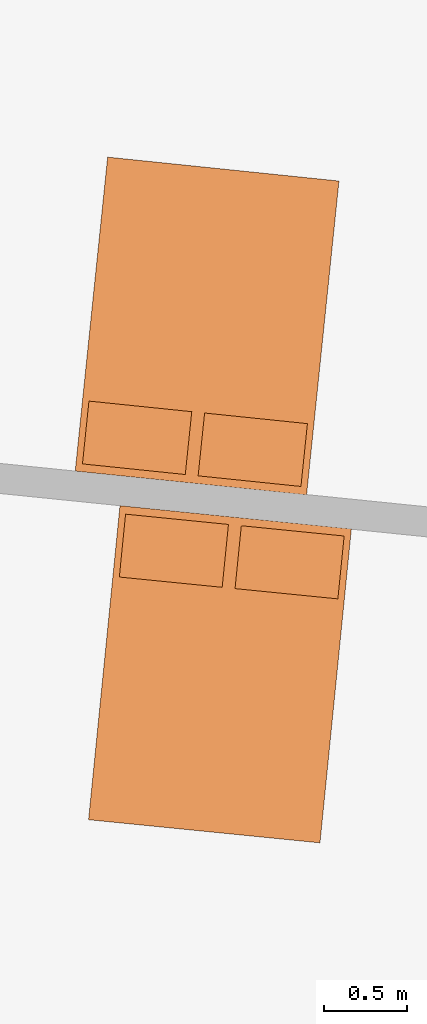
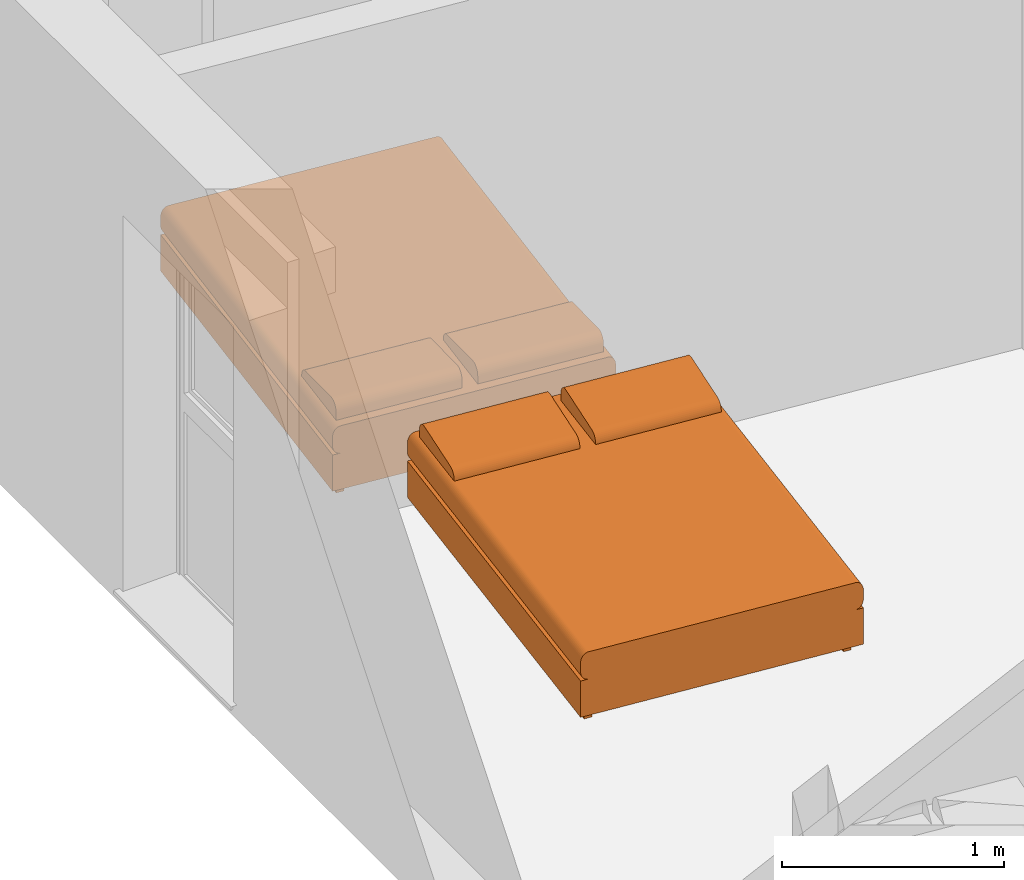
# One storey, part 157 of 164: 2 proxies.
"""IFC2X3 building model written with IfcOpenShell, lengths in millimetres."""

import ifcopenshell
import ifcopenshell.guid

model = None  # the IFC model being written
_history = None  # IfcOwnerHistory: only IFC2X3 demands one
_inside = {}  # id of a spatial element -> (the spatial element, [elements in it])
_under = {}  # id of a project, library or spatial element -> (it, [spatial elements below it])
_declared = {}  # id of a project -> (the project, [libraries it declares])
_typed = {}  # id of a type object -> (the type object, [elements of that type])
_made_of = {}  # id of a material, layer set ... -> (it, [elements and type objects made of it])


def new_model(schema):
    """Start an empty IFC model of exactly this schema.

    Asked for "IFC4X3", IfcOpenShell would pick the latest addendum, in which some entities
    have other attributes; the version numbers below select the first issue.
    IFC2X3 requires an IfcOwnerHistory on every rooted entity: one is made here for all.
    """
    global model, _history
    if schema == "IFC4X3":
        model = ifcopenshell.file(schema_version=(4, 3, 0, 0))
    else:
        model = ifcopenshell.file(schema=schema)
    _inside.clear()
    _under.clear()
    _declared.clear()
    _typed.clear()
    _made_of.clear()
    _history = None
    if model.schema == "IFC2X3":
        org = make("IfcOrganization", Name="unknown")
        user = make(
            "IfcPersonAndOrganization",
            ThePerson=make("IfcPerson", FamilyName="unknown"),
            TheOrganization=org,
        )
        app = make(
            "IfcApplication",
            ApplicationDeveloper=org,
            Version="unknown",
            ApplicationFullName="unknown",
            ApplicationIdentifier="unknown",
        )
        _history = make(
            "IfcOwnerHistory",
            OwningUser=user,
            OwningApplication=app,
            ChangeAction="ADDED",
            CreationDate=0,
        )
    return model


def make(cls, **values):
    """One entity of the class cls with the attributes given. An attribute that is None is left unset."""
    return model.create_entity(
        cls, **{name: value for name, value in values.items() if value is not None}
    )


def entity(cls, *values):
    """Any entity or typed value of the class cls, its attributes in the order of the schema. None: left unset."""
    e = model.create_entity(cls)
    for i, value in enumerate(values):
        if value is not None:
            e[i] = value
    return e


def rooted(cls, **values):
    """An entity with a GlobalId (a new one), such as an element, a storey or a relation."""
    return make(cls, GlobalId=ifcopenshell.guid.new(), OwnerHistory=_history, **values)


def si_unit(unit_type, name, prefix=None):
    """IfcSIUnit, for example si_unit("LENGTHUNIT", "METRE", prefix="MILLI")."""
    return make("IfcSIUnit", UnitType=unit_type, Prefix=prefix, Name=name)


def converted_unit(unit_type, name, factor, base, dimensions=None, offset=None):
    """IfcConversionBasedUnit, such as the inch: factor (a typed value) times the base unit."""
    return make(
        "IfcConversionBasedUnit"
        if offset is None
        else "IfcConversionBasedUnitWithOffset",
        ConversionOffset=offset,
        Dimensions=None
        if dimensions is None
        else entity("IfcDimensionalExponents", *dimensions),
        UnitType=unit_type,
        Name=name,
        ConversionFactor=make(
            "IfcMeasureWithUnit", ValueComponent=factor, UnitComponent=base
        ),
    )


def derived_unit(unit_type, elements):
    """IfcDerivedUnit: a product of units, each with its exponent."""
    return make(
        "IfcDerivedUnit",
        Elements=[
            make("IfcDerivedUnitElement", Unit=unit, Exponent=power)
            for unit, power in elements
        ],
        UnitType=unit_type,
    )


def money_unit(currency):
    """IfcMonetaryUnit."""
    return make("IfcMonetaryUnit", Currency=currency)


def assignment(units):
    """IfcUnitAssignment: the units of a project."""
    return None if units is None else make("IfcUnitAssignment", Units=units)


def point(xyz):
    """IfcCartesianPoint."""
    return None if xyz is None else make("IfcCartesianPoint", Coordinates=xyz)


def direction(xyz):
    """IfcDirection."""
    return None if xyz is None else make("IfcDirection", DirectionRatios=xyz)


def frame(location, z_axis=None, x_axis=None):
    """IfcAxis2Placement3D, a coordinate frame: its origin and axes. An axis left out is left unset."""
    return make(
        "IfcAxis2Placement3D",
        Location=point(location),
        Axis=direction(z_axis),
        RefDirection=direction(x_axis),
    )


def origin_with_axes():
    """The frame at (0, 0, 0) with the z axis (0, 0, 1) and the x axis (1, 0, 0) written out."""
    return frame((0.0, 0.0, 0.0), z_axis=(0.0, 0.0, 1.0), x_axis=(1.0, 0.0, 0.0))


def place(relative_to, where):
    """IfcLocalPlacement: puts the frame where relative to a parent placement (None: the world)."""
    return make(
        "IfcLocalPlacement", PlacementRelTo=relative_to, RelativePlacement=where
    )


def context(
    kind, dimensions, precision=None, world=None, true_north=None, identifier=None
):
    """IfcGeometricRepresentationContext, for example the 3D "Model" context."""
    return make(
        "IfcGeometricRepresentationContext",
        ContextIdentifier=identifier,
        ContextType=kind,
        CoordinateSpaceDimension=dimensions,
        Precision=precision,
        WorldCoordinateSystem=world,
        TrueNorth=true_north,
    )


def subcontext(parent, identifier, kind, view, scale=None):
    """IfcGeometricRepresentationSubContext, for example "Body" below "Model"."""
    return make(
        "IfcGeometricRepresentationSubContext",
        ContextIdentifier=identifier,
        ContextType=kind,
        ParentContext=parent,
        TargetScale=scale,
        TargetView=view,
    )


def project(units=None, contexts=None):
    """IfcProject with its units and contexts."""
    return rooted(
        "IfcProject",
        Name="project",
        RepresentationContexts=contexts,
        UnitsInContext=assignment(units),
    )


def spatial(cls, under=None, at=None, **own):
    """A site, building, storey or space (cls), placed at a placement, below another one or the project."""
    s = rooted(cls, ObjectPlacement=at, **own)
    if under is not None:
        _under.setdefault(under.id(), (under, []))[1].append(s)
    return s


def faces_of(points, faces, orient=None, outer=None):
    """IfcFace entities. A face is a list of loops; a loop is a list of indices into points, from 0.

    orient and outer hold one flag for each loop. By default every Orientation is true, the
    first loop of a face is its IfcFaceOuterBound and the others are IfcFaceBound.
    """
    made = []
    for i, loops in enumerate(faces):
        bounds = []
        for j, loop in enumerate(loops):
            is_outer = j == 0 if outer is None else outer[i][j]
            bounds.append(
                make(
                    "IfcFaceOuterBound" if is_outer else "IfcFaceBound",
                    Bound=make("IfcPolyLoop", Polygon=[points[k] for k in loop]),
                    Orientation=True if orient is None else orient[i][j],
                )
            )
        made.append(make("IfcFace", Bounds=bounds))
    return made


def open_shell(faces, orient=None, outer=None):
    """The faces of one IfcOpenShell. surface_model builds it on its shared points."""
    return ("IfcOpenShell", faces, orient, outer)


def faceted_brep(points, faces, orient=None, outer=None, voids=None):
    """IfcFacetedBrep: a solid bounded by flat faces; with voids (closed shells), ...WithVoids."""
    shared = [point(p) for p in points]
    hull = make("IfcClosedShell", CfsFaces=faces_of(shared, faces, orient, outer))
    if voids is None:
        return make("IfcFacetedBrep", Outer=hull)
    return make(
        "IfcFacetedBrepWithVoids",
        Outer=hull,
        Voids=[
            make(cls, CfsFaces=faces_of(shared, fs, o, b)) for cls, fs, o, b in voids
        ],
    )


def surface_model(cls, points, shells):
    """IfcFaceBasedSurfaceModel or IfcShellBasedSurfaceModel (cls): surfaces that need not close."""
    shared = [point(p) for p in points]
    made = [make(c, CfsFaces=faces_of(shared, fs, o, b)) for c, fs, o, b in shells]
    if cls == "IfcFaceBasedSurfaceModel":
        return make(cls, FbsmFaces=made)
    return make(cls, SbsmBoundary=made)


def shape(context_of_items, identifier, shape_type, items):
    """IfcShapeRepresentation: the items that make up one representation, for example the "Body"."""
    return make(
        "IfcShapeRepresentation",
        ContextOfItems=context_of_items,
        RepresentationIdentifier=identifier,
        RepresentationType=shape_type,
        Items=items,
    )


def source(mapping_origin, context_of_items, identifier, shape_type, items):
    """IfcRepresentationMap: a shape defined once, which mapped items show again and again."""
    return make(
        "IfcRepresentationMap",
        MappingOrigin=mapping_origin,
        MappedRepresentation=shape(context_of_items, identifier, shape_type, items),
    )


def transform(
    local_origin,
    x_axis=None,
    y_axis=None,
    z_axis=None,
    scale=None,
    scale2=None,
    scale3=None,
    uniform=True,
):
    """IfcCartesianTransformationOperator3D, or its non-uniform kind. x_axis, y_axis, z_axis: its Axis1, 2, 3."""
    if uniform:
        return make(
            "IfcCartesianTransformationOperator3D",
            Axis1=direction(x_axis),
            Axis2=direction(y_axis),
            LocalOrigin=point(local_origin),
            Scale=scale,
            Axis3=direction(z_axis),
        )
    return make(
        "IfcCartesianTransformationOperator3DnonUniform",
        Axis1=direction(x_axis),
        Axis2=direction(y_axis),
        LocalOrigin=point(local_origin),
        Scale=scale,
        Axis3=direction(z_axis),
        Scale2=scale2,
        Scale3=scale3,
    )


def mapped(mapping_source, mapping_target):
    """IfcMappedItem: shows the shape of a source again, moved by a transform."""
    return make(
        "IfcMappedItem", MappingSource=mapping_source, MappingTarget=mapping_target
    )


def made_of(thing, what):
    """Note that an element or type object is made of a material, layer set ...; save() writes the relation."""
    if what is not None:
        _made_of.setdefault(what.id(), (what, []))[1].append(thing)
    return thing


def type_object(cls, material=None, **own):
    """A type object (cls), such as IfcWallType, which elements share."""
    return made_of(rooted(cls, **own), material)


def element(
    cls,
    number,
    at=None,
    inside=None,
    cuts=None,
    type_object=None,
    material=None,
    context=None,
    identifier="Body",
    shape_type=None,
    held_by="IfcProductDefinitionShape",
    body=None,
    shapes=None,
    **own,
):
    """One element of the class cls, such as IfcWall. Its Tag is "e" and its number.

    at: its placement. inside: the storey or other place that contains it. cuts: it is an
    opening in that element (IfcRelVoidsElement). A single representation is given by context,
    identifier, shape_type and body (its items); several are given by shapes. held_by: the class
    of the entity that holds the representations. save() writes the other relations.
    """
    e = rooted(cls, Tag="e%d" % number, ObjectPlacement=at, **own)
    if body is not None:
        shapes = [shape(context, identifier, shape_type, body)]
    if shapes is not None:
        e.Representation = make(held_by, Representations=shapes)
    if inside is not None:
        _inside.setdefault(inside.id(), (inside, []))[1].append(e)
    if cuts is not None:
        rooted(
            "IfcRelVoidsElement", RelatingBuildingElement=cuts, RelatedOpeningElement=e
        )
    if type_object is not None:
        _typed.setdefault(type_object.id(), (type_object, []))[1].append(e)
    return made_of(e, material)


def aggregate(whole, parts):
    """IfcRelAggregates: a whole, such as a stair, and the parts it consists of."""
    return rooted("IfcRelAggregates", RelatingObject=whole, RelatedObjects=parts)


def save(model, path):
    """Write the relations noted so far, then the file.

    IfcRelAggregates (storeys below a building ...), IfcRelContainedInSpatialStructure (elements
    in a storey), IfcRelDefinesByType, IfcRelAssociatesMaterial and IfcRelDeclares: one each for
    every whole, place, type object, material and project.
    """
    for whole, parts in _under.values():
        aggregate(whole, parts)
    for where, things in _inside.values():
        rooted(
            "IfcRelContainedInSpatialStructure",
            RelatedElements=things,
            RelatingStructure=where,
        )
    for kind, things in _typed.values():
        rooted("IfcRelDefinesByType", RelatedObjects=things, RelatingType=kind)
    for what, things in _made_of.values():
        rooted("IfcRelAssociatesMaterial", RelatedObjects=things, RelatingMaterial=what)
    for by, libraries in _declared.values():
        rooted("IfcRelDeclares", RelatingContext=by, RelatedDefinitions=libraries)
    model.write(path)


model = new_model("IFC2X3")

# Units and contexts
model_context = context("Model", 3, precision=0.01, world=origin_with_axes(), true_north=direction((0.0, 1.0)))
body_context = subcontext(model_context, "Body", "Model", "MODEL_VIEW")
ifc_project = project(units=[si_unit("LENGTHUNIT", "METRE", prefix="MILLI"), si_unit("AREAUNIT", "SQUARE_METRE"), si_unit("VOLUMEUNIT", "CUBIC_METRE"), converted_unit("PLANEANGLEUNIT", "DEGREE", entity("IfcPlaneAngleMeasure", 0.0174532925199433), si_unit("PLANEANGLEUNIT", "RADIAN"), dimensions=[0, 0, 0, 0, 0, 0, 0]), money_unit("USD"), converted_unit("TIMEUNIT", "Year", entity("IfcTimeMeasure", 31557600.0), si_unit("TIMEUNIT", "SECOND"), dimensions=[0, 0, 1, 0, 0, 0, 0]), si_unit("MASSUNIT", "GRAM", prefix="KILO"), si_unit("THERMODYNAMICTEMPERATUREUNIT", "DEGREE_CELSIUS"), si_unit("LUMINOUSINTENSITYUNIT", "LUMEN"), si_unit("ENERGYUNIT", "JOULE", prefix="MEGA"), derived_unit("THERMALCONDUCTANCEUNIT", [(si_unit("POWERUNIT", "WATT"), 1), (si_unit("LENGTHUNIT", "METRE"), -1), (si_unit("THERMODYNAMICTEMPERATUREUNIT", "KELVIN"), -1)]), derived_unit("SPECIFICHEATCAPACITYUNIT", [(si_unit("ENERGYUNIT", "JOULE"), 1), (si_unit("MASSUNIT", "GRAM", prefix="KILO"), -1), (si_unit("THERMODYNAMICTEMPERATUREUNIT", "KELVIN"), -1)]), derived_unit("MASSDENSITYUNIT", [(si_unit("MASSUNIT", "GRAM", prefix="KILO"), 1), (si_unit("VOLUMEUNIT", "CUBIC_METRE"), -1)])], contexts=[model_context])

# Site, building, storey
site_placement = place(None, origin_with_axes())
site = spatial("IfcSite", under=ifc_project, at=site_placement, Name="Site", CompositionType="ELEMENT")
building_placement = place(site_placement, origin_with_axes())
building = spatial("IfcBuilding", under=site, at=building_placement, Name="Bâtiment", CompositionType="ELEMENT")
storey_placement = place(building_placement, frame((0.0, 0.0, 5750.0), z_axis=(0.0, 0.0, 1.0), x_axis=(1.0, 0.0, 0.0)))
storey = spatial("IfcBuildingStorey", under=building, at=storey_placement, Name="Etage1", CompositionType="ELEMENT", Elevation=5750.0)

# Proxies
building_element_proxy_type = type_object("IfcBuildingElementProxyType", PredefinedType="NOTDEFINED")
shared_shape_1 = source(origin_with_axes(), body_context, "Body", "SurfaceModel", [
    faceted_brep([(-622.2222222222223, -95.0, 0.0), (-661.1111111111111, -95.0, 0.0), (-661.1111111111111, -47.5, 0.0), (-622.2222222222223, -47.5, 0.0), (-622.2222222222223, -95.0, 50.0), (-661.1111111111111, -95.0, 50.0), (-661.1111111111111, -47.5, 50.0), (-622.2222222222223, -47.5, 50.0)], [[[0, 1, 2, 3]], [[1, 0, 4, 5]], [[2, 1, 5, 6]], [[3, 2, 6, 7]], [[0, 3, 7, 4]], [[5, 4, 7, 6]]]),
    faceted_brep([(-622.2222222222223, -1852.5, 0.0), (-661.1111111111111, -1852.5, 0.0), (-661.1111111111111, -1805.0, 0.0), (-622.2222222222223, -1805.0, 0.0), (-622.2222222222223, -1852.5, 50.0), (-661.1111111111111, -1852.5, 50.0), (-661.1111111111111, -1805.0, 50.0), (-622.2222222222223, -1805.0, 50.0)], [[[0, 1, 2, 3]], [[1, 0, 4, 5]], [[2, 1, 5, 6]], [[3, 2, 6, 7]], [[0, 3, 7, 4]], [[5, 4, 7, 6]]]),
    faceted_brep([(661.111111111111, -1852.5, 0.0), (622.2222222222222, -1852.5, 0.0), (622.2222222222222, -1805.0, 0.0), (661.111111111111, -1805.0, 0.0), (661.111111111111, -1852.5, 50.0), (622.2222222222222, -1852.5, 50.0), (622.2222222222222, -1805.0, 50.0), (661.111111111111, -1805.0, 50.0)], [[[0, 1, 2, 3]], [[1, 0, 4, 5]], [[2, 1, 5, 6]], [[3, 2, 6, 7]], [[0, 3, 7, 4]], [[5, 4, 7, 6]]]),
    faceted_brep([(661.111111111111, -94.99999999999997, 0.0), (622.2222222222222, -94.99999999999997, 0.0), (622.2222222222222, -47.49999999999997, 0.0), (661.111111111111, -47.49999999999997, 0.0), (661.111111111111, -94.99999999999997, 50.0), (622.2222222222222, -94.99999999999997, 50.0), (622.2222222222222, -47.49999999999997, 50.0), (661.111111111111, -47.49999999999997, 50.0)], [[[0, 1, 2, 3]], [[1, 0, 4, 5]], [[2, 1, 5, 6]], [[3, 2, 6, 7]], [[0, 3, 7, 4]], [[5, 4, 7, 6]]]),
    faceted_brep([(-700.0, 0.0, 50.0), (700.0, 0.0, 50.0), (700.0, -1900.0, 50.00000000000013), (-700.0, -1900.0, 50.00000000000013), (-700.0, 0.0, 250.0), (700.0, 0.0, 250.0), (700.0, -1900.0, 250.0000000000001), (-700.0, -1900.0, 250.0000000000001)], [[[0, 1, 2, 3]], [[0, 4, 5, 1]], [[1, 5, 6, 2]], [[3, 2, 6, 7]], [[4, 0, 3, 7]], [[5, 4, 7, 6]]]),
    surface_model("IfcShellBasedSurfaceModel", [(661.1111111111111, 0.0, 250.0), (667.8640957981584, 0.0, 250.7596123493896), (667.8640957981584, -1900.0, 250.7596123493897), (661.1111111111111, -1900.0, 250.0000000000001), (-661.1111111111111, 0.0, 250.0), (-667.8640957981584, 0.0, 250.7596123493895), (-674.4118944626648, 0.0, 253.0153689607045), (-680.5555555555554, 0.0, 256.698729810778), (-686.1084070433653, 0.0, 261.6977778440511), (-690.9017283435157, 0.0, 267.860619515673), (-694.7898768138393, 0.0, 275.0), (-697.654713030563, 0.0, 282.8989928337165), (-699.4091903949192, 0.0, 291.3175911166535), (-700.0, 0.0, 300.0000000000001), (-700.0000000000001, 0.0, 350.0), (-699.4091903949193, 0.0, 358.6824088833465), (-697.654713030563, 0.0, 367.1010071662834), (-694.7898768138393, 0.0, 375.0), (-690.9017283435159, 0.0, 382.139380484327), (-686.1084070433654, 0.0, 388.3022221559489), (-680.5555555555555, 0.0, 393.301270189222), (-674.4118944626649, 0.0, 396.9846310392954), (-667.8640957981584, 0.0, 399.2403876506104), (-661.1111111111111, 0.0, 400.0), (661.111111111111, 0.0, 400.0000000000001), (667.8640957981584, 0.0, 399.2403876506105), (674.4118944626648, 0.0, 396.9846310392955), (680.5555555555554, 0.0, 393.301270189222), (686.1084070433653, 0.0, 388.3022221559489), (690.9017283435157, 0.0, 382.139380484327), (694.7898768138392, 0.0, 375.0000000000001), (697.654713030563, 0.0, 367.1010071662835), (699.4091903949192, 0.0, 358.6824088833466), (700.0, 0.0, 350.0000000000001), (700.0, 0.0, 300.0000000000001), (699.4091903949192, 0.0, 291.3175911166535), (697.654713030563, 0.0, 282.8989928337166), (694.7898768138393, 0.0, 275.0), (690.9017283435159, 0.0, 267.8606195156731), (686.1084070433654, 0.0, 261.6977778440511), (680.5555555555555, 0.0, 256.698729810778), (674.4118944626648, 0.0, 253.0153689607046), (674.4118944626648, -1900.0, 253.0153689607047), (-661.1111111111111, -1900.0, 250.0000000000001), (680.5555555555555, -1900.0, 256.6987298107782), (686.1084070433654, -1900.0, 261.6977778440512), (690.9017283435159, -1900.0, 267.8606195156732), (694.7898768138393, -1900.0, 275.0000000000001), (697.654713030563, -1900.0, 282.8989928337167), (699.4091903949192, -1900.0, 291.3175911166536), (700.0, -1900.0, 300.0000000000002), (700.0, -1900.0, 350.0000000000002), (699.4091903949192, -1900.0, 358.6824088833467), (697.654713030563, -1900.0, 367.1010071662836), (694.7898768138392, -1900.0, 375.0000000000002), (690.9017283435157, -1900.0, 382.1393804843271), (686.1084070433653, -1900.0, 388.302222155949), (680.5555555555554, -1900.0, 393.3012701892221), (674.4118944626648, -1900.0, 396.9846310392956), (667.8640957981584, -1900.0, 399.2403876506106), (661.111111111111, -1900.0, 400.0000000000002), (-661.1111111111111, -1900.0, 400.0000000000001), (-667.8640957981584, -1900.0, 399.2403876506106), (-674.4118944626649, -1900.0, 396.9846310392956), (-680.5555555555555, -1900.0, 393.3012701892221), (-686.1084070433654, -1900.0, 388.302222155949), (-690.9017283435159, -1900.0, 382.1393804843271), (-694.7898768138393, -1900.0, 375.0000000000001), (-697.654713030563, -1900.0, 367.1010071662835), (-699.4091903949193, -1900.0, 358.6824088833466), (-700.0000000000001, -1900.0, 350.0000000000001), (-700.0, -1900.0, 300.0000000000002), (-699.4091903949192, -1900.0, 291.3175911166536), (-697.654713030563, -1900.0, 282.8989928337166), (-694.7898768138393, -1900.0, 275.0000000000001), (-690.9017283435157, -1900.0, 267.8606195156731), (-686.1084070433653, -1900.0, 261.6977778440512), (-680.5555555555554, -1900.0, 256.6987298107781), (-674.4118944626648, -1900.0, 253.0153689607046), (-667.8640957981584, -1900.0, 250.7596123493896)], [open_shell([[[0, 1, 2, 3]], [[4, 5, 6, 7, 8, 9, 10, 11, 12, 13, 14, 15, 16, 17, 18, 19, 20, 21, 22, 23, 24, 25, 26, 27, 28, 29, 30, 31, 32, 33, 34, 35, 36, 37, 38, 39, 40, 41, 1, 0]], [[1, 41, 42, 2]], [[43, 3, 2, 42, 44, 45, 46, 47, 48, 49, 50, 51, 52, 53, 54, 55, 56, 57, 58, 59, 60, 61, 62, 63, 64, 65, 66, 67, 68, 69, 70, 71, 72, 73, 74, 75, 76, 77, 78, 79]], [[5, 4, 43, 79]], [[6, 5, 79, 78]], [[7, 6, 78, 77]], [[8, 7, 77, 76]], [[9, 8, 76, 75]], [[10, 9, 75, 74]], [[11, 10, 74, 73]], [[12, 11, 73, 72]], [[13, 12, 72, 71]], [[14, 13, 71, 70]], [[15, 14, 70, 69]], [[16, 15, 69, 68]], [[17, 16, 68, 67]], [[18, 17, 67, 66]], [[19, 18, 66, 65]], [[20, 19, 65, 64]], [[21, 20, 64, 63]], [[22, 21, 63, 62]], [[23, 22, 62, 61]], [[24, 23, 61, 60]], [[25, 24, 60, 59]], [[26, 25, 59, 58]], [[27, 26, 58, 57]], [[28, 27, 57, 56]], [[29, 28, 56, 55]], [[30, 29, 55, 54]], [[31, 30, 54, 53]], [[32, 31, 53, 52]], [[33, 32, 52, 51]], [[34, 33, 51, 50]], [[35, 34, 50, 49]], [[36, 35, 49, 48]], [[37, 36, 48, 47]], [[38, 37, 47, 46]], [[39, 38, 46, 45]], [[40, 39, 45, 44]], [[41, 40, 44, 42]]])]),
    faceted_brep([(38.88888888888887, -47.49999999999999, 400.0), (38.88888888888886, -47.49999999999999, 443.4), (661.1111111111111, -47.50000000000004, 443.4000000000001), (661.1111111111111, -47.50000000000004, 400.0000000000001), (38.88888888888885, -427.5, 400.0), (38.88888888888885, -427.6960812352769, 408.695442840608), (38.88888888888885, -426.4675711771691, 417.2966661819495), (38.88888888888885, -423.8511300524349, 425.5469991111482), (38.88888888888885, -419.9248356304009, 433.2002417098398), (38.88888888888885, -414.8058532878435, 440.0280119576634), (38.88888888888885, -408.6469396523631, 445.826560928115), (38.88888888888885, -401.6318841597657, 450.4228529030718), (38.88888888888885, -393.9700245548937, 453.6797289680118), (38.88888888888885, -385.89, 455.5), (38.88888888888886, -100.89, 493.0000000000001), (38.88888888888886, -92.85488048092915, 493.3370808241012), (38.88888888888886, -84.88093291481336, 492.2422169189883), (38.88888888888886, -77.19681007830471, 489.7468034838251), (38.88888888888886, -70.02285403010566, 485.922396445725), (38.88888888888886, -63.56477780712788, 480.878660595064), (38.88888888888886, -58.00776660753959, 474.7602249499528), (38.88888888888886, -53.51116760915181, 467.7425355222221), (38.88888888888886, -50.20392069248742, 460.0268244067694), (38.88888888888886, -48.18086109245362, 451.834339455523), (661.1111111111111, -48.18086109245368, 451.8343394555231), (661.1111111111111, -50.20392069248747, 460.0268244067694), (661.1111111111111, -53.51116760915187, 467.7425355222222), (661.1111111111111, -58.00776660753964, 474.7602249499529), (661.1111111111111, -63.56477780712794, 480.878660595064), (661.1111111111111, -70.02285403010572, 485.922396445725), (661.1111111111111, -77.19681007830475, 489.7468034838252), (661.1111111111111, -84.88093291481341, 492.2422169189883), (661.1111111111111, -92.85488048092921, 493.3370808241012), (661.1111111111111, -100.8900000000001, 493.0000000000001), (661.1111111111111, -385.89, 455.5000000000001), (661.1111111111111, -393.9700245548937, 453.6797289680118), (661.1111111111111, -401.6318841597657, 450.4228529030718), (661.1111111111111, -408.6469396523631, 445.826560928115), (661.1111111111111, -414.8058532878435, 440.0280119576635), (661.1111111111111, -419.924835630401, 433.2002417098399), (661.1111111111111, -423.8511300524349, 425.5469991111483), (661.1111111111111, -426.4675711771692, 417.2966661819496), (661.1111111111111, -427.6960812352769, 408.6954428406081), (661.1111111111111, -427.5, 400.0000000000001)], [[[0, 1, 2, 3]], [[0, 4, 5, 6, 7, 8, 9, 10, 11, 12, 13, 14, 15, 16, 17, 18, 19, 20, 21, 22, 23, 1]], [[1, 23, 24, 2]], [[3, 2, 24, 25, 26, 27, 28, 29, 30, 31, 32, 33, 34, 35, 36, 37, 38, 39, 40, 41, 42, 43]], [[4, 0, 3, 43]], [[5, 4, 43, 42]], [[6, 5, 42, 41]], [[7, 6, 41, 40]], [[8, 7, 40, 39]], [[9, 8, 39, 38]], [[10, 9, 38, 37]], [[11, 10, 37, 36]], [[12, 11, 36, 35]], [[13, 12, 35, 34]], [[14, 13, 34, 33]], [[15, 14, 33, 32]], [[16, 15, 32, 31]], [[17, 16, 31, 30]], [[18, 17, 30, 29]], [[19, 18, 29, 28]], [[20, 19, 28, 27]], [[21, 20, 27, 26]], [[22, 21, 26, 25]], [[23, 22, 25, 24]]]),
    faceted_brep([(-661.1111111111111, -47.49999999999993, 399.9999999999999), (-661.1111111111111, -47.49999999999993, 443.4), (-38.88888888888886, -47.49999999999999, 443.4), (-38.88888888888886, -47.49999999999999, 400.0), (-661.1111111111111, -427.4999999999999, 399.9999999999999), (-661.1111111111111, -427.6960812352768, 408.6954428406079), (-661.1111111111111, -426.4675711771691, 417.2966661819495), (-661.1111111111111, -423.8511300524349, 425.5469991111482), (-661.1111111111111, -419.9248356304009, 433.2002417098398), (-661.1111111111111, -414.8058532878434, 440.0280119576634), (-661.1111111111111, -408.646939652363, 445.8265609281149), (-661.1111111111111, -401.6318841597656, 450.4228529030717), (-661.1111111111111, -393.9700245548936, 453.6797289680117), (-661.1111111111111, -385.8899999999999, 455.4999999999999), (-661.1111111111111, -100.89, 493.0), (-661.1111111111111, -92.8548804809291, 493.3370808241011), (-661.1111111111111, -84.8809329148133, 492.2422169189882), (-661.1111111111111, -77.19681007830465, 489.7468034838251), (-661.1111111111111, -70.0228540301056, 485.9223964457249), (-661.1111111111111, -63.56477780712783, 480.8786605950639), (-661.1111111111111, -58.00776660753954, 474.7602249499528), (-661.1111111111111, -53.51116760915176, 467.7425355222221), (-661.1111111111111, -50.20392069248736, 460.0268244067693), (-661.1111111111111, -48.18086109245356, 451.834339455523), (-38.88888888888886, -48.18086109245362, 451.834339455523), (-38.88888888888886, -50.20392069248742, 460.0268244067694), (-38.88888888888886, -53.51116760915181, 467.7425355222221), (-38.88888888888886, -58.00776660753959, 474.7602249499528), (-38.88888888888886, -63.56477780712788, 480.878660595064), (-38.88888888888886, -70.02285403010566, 485.922396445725), (-38.88888888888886, -77.19681007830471, 489.7468034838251), (-38.88888888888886, -84.88093291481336, 492.2422169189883), (-38.88888888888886, -92.85488048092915, 493.3370808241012), (-38.88888888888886, -100.89, 493.0000000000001), (-38.88888888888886, -385.8899999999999, 455.5), (-38.88888888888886, -393.9700245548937, 453.6797289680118), (-38.88888888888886, -401.6318841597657, 450.4228529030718), (-38.88888888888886, -408.6469396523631, 445.826560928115), (-38.88888888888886, -414.8058532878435, 440.0280119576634), (-38.88888888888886, -419.9248356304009, 433.2002417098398), (-38.88888888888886, -423.8511300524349, 425.5469991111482), (-38.88888888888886, -426.4675711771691, 417.2966661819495), (-38.88888888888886, -427.6960812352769, 408.695442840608), (-38.88888888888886, -427.4999999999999, 400.0)], [[[0, 1, 2, 3]], [[0, 4, 5, 6, 7, 8, 9, 10, 11, 12, 13, 14, 15, 16, 17, 18, 19, 20, 21, 22, 23, 1]], [[1, 23, 24, 2]], [[3, 2, 24, 25, 26, 27, 28, 29, 30, 31, 32, 33, 34, 35, 36, 37, 38, 39, 40, 41, 42, 43]], [[4, 0, 3, 43]], [[5, 4, 43, 42]], [[6, 5, 42, 41]], [[7, 6, 41, 40]], [[8, 7, 40, 39]], [[9, 8, 39, 38]], [[10, 9, 38, 37]], [[11, 10, 37, 36]], [[12, 11, 36, 35]], [[13, 12, 35, 34]], [[14, 13, 34, 33]], [[15, 14, 33, 32]], [[16, 15, 32, 31]], [[17, 16, 31, 30]], [[18, 17, 30, 29]], [[19, 18, 29, 28]], [[20, 19, 28, 27]], [[21, 20, 27, 26]], [[22, 21, 26, 25]], [[23, 22, 25, 24]]]),
])
proxy_1_placement = place(storey_placement, frame((2218565.66618662, -610820.4848225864, 0.0), z_axis=(0.0, 0.0, 1.0), x_axis=(-0.994709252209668, 0.1027302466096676, 0.0)))
element("IfcBuildingElementProxy", 1, at=proxy_1_placement, inside=storey, type_object=building_element_proxy_type, Name="Obj.-003", context=body_context, shape_type="MappedRepresentation", body=[
    mapped(shared_shape_1, transform((0.0, 0.0, 0.0))),
])
shared_shape_2 = source(origin_with_axes(), body_context, "Body", "SurfaceModel", [
    faceted_brep([(622.2222222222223, -95.0, 0.0), (622.2222222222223, -47.5, 0.0), (661.1111111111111, -47.5, 0.0), (661.1111111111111, -95.0, 0.0), (622.2222222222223, -95.0, 50.0), (622.2222222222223, -47.5, 50.0), (661.1111111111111, -47.5, 50.0), (661.1111111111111, -95.0, 50.0)], [[[0, 1, 2, 3]], [[0, 4, 5, 1]], [[1, 5, 6, 2]], [[2, 6, 7, 3]], [[3, 7, 4, 0]], [[7, 6, 5, 4]]]),
    faceted_brep([(622.2222222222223, -1852.5, 0.0), (622.2222222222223, -1805.0, 0.0), (661.1111111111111, -1805.0, 0.0), (661.1111111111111, -1852.5, 0.0), (622.2222222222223, -1852.5, 50.0), (622.2222222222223, -1805.0, 50.0), (661.1111111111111, -1805.0, 50.0), (661.1111111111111, -1852.5, 50.0)], [[[0, 1, 2, 3]], [[0, 4, 5, 1]], [[1, 5, 6, 2]], [[2, 6, 7, 3]], [[3, 7, 4, 0]], [[7, 6, 5, 4]]]),
    faceted_brep([(-661.111111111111, -1852.5, 0.0), (-661.111111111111, -1805.0, 0.0), (-622.2222222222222, -1805.0, 0.0), (-622.2222222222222, -1852.5, 0.0), (-661.111111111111, -1852.5, 50.0), (-661.111111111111, -1805.0, 50.0), (-622.2222222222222, -1805.0, 50.0), (-622.2222222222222, -1852.5, 50.0)], [[[0, 1, 2, 3]], [[0, 4, 5, 1]], [[1, 5, 6, 2]], [[2, 6, 7, 3]], [[3, 7, 4, 0]], [[7, 6, 5, 4]]]),
    faceted_brep([(-661.111111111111, -94.99999999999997, 0.0), (-661.111111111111, -47.49999999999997, 0.0), (-622.2222222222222, -47.49999999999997, 0.0), (-622.2222222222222, -94.99999999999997, 0.0), (-661.111111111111, -94.99999999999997, 50.0), (-661.111111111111, -47.49999999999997, 50.0), (-622.2222222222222, -47.49999999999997, 50.0), (-622.2222222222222, -94.99999999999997, 50.0)], [[[0, 1, 2, 3]], [[0, 4, 5, 1]], [[1, 5, 6, 2]], [[2, 6, 7, 3]], [[3, 7, 4, 0]], [[7, 6, 5, 4]]]),
    faceted_brep([(700.0, 0.0, 50.0), (700.0, -1900.0, 50.00000000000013), (-700.0, -1900.0, 50.00000000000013), (-700.0, 0.0, 50.0), (700.0, 0.0, 250.0), (700.0, -1900.0, 250.0000000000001), (-700.0, -1900.0, 250.0000000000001), (-700.0, 0.0, 250.0)], [[[0, 1, 2, 3]], [[4, 5, 1, 0]], [[1, 5, 6, 2]], [[3, 2, 6, 7]], [[0, 3, 7, 4]], [[7, 6, 5, 4]]]),
    surface_model("IfcShellBasedSurfaceModel", [(-661.1111111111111, 0.0, 250.0), (-661.1111111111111, -1900.0, 250.0000000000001), (-667.8640957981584, -1900.0, 250.7596123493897), (-667.8640957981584, 0.0, 250.7596123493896), (661.1111111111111, -1900.0, 250.0000000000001), (667.8640957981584, -1900.0, 250.7596123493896), (674.4118944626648, -1900.0, 253.0153689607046), (680.5555555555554, -1900.0, 256.6987298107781), (686.1084070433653, -1900.0, 261.6977778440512), (690.9017283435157, -1900.0, 267.8606195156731), (694.7898768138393, -1900.0, 275.0000000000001), (697.654713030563, -1900.0, 282.8989928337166), (699.4091903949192, -1900.0, 291.3175911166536), (700.0, -1900.0, 300.0000000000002), (700.0000000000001, -1900.0, 350.0000000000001), (699.4091903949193, -1900.0, 358.6824088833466), (697.654713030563, -1900.0, 367.1010071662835), (694.7898768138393, -1900.0, 375.0000000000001), (690.9017283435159, -1900.0, 382.1393804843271), (686.1084070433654, -1900.0, 388.302222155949), (680.5555555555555, -1900.0, 393.3012701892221), (674.4118944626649, -1900.0, 396.9846310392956), (667.8640957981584, -1900.0, 399.2403876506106), (661.1111111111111, -1900.0, 400.0000000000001), (-661.111111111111, -1900.0, 400.0000000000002), (-667.8640957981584, -1900.0, 399.2403876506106), (-674.4118944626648, -1900.0, 396.9846310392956), (-680.5555555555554, -1900.0, 393.3012701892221), (-686.1084070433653, -1900.0, 388.302222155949), (-690.9017283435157, -1900.0, 382.1393804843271), (-694.7898768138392, -1900.0, 375.0000000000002), (-697.654713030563, -1900.0, 367.1010071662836), (-699.4091903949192, -1900.0, 358.6824088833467), (-700.0, -1900.0, 350.0000000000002), (-700.0, -1900.0, 300.0000000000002), (-699.4091903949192, -1900.0, 291.3175911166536), (-697.654713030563, -1900.0, 282.8989928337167), (-694.7898768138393, -1900.0, 275.0000000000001), (-690.9017283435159, -1900.0, 267.8606195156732), (-686.1084070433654, -1900.0, 261.6977778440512), (-680.5555555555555, -1900.0, 256.6987298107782), (-674.4118944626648, -1900.0, 253.0153689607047), (-674.4118944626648, 0.0, 253.0153689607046), (661.1111111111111, 0.0, 250.0), (-680.5555555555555, 0.0, 256.698729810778), (-686.1084070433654, 0.0, 261.6977778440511), (-690.9017283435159, 0.0, 267.8606195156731), (-694.7898768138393, 0.0, 275.0), (-697.654713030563, 0.0, 282.8989928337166), (-699.4091903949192, 0.0, 291.3175911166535), (-700.0, 0.0, 300.0000000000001), (-700.0, 0.0, 350.0000000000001), (-699.4091903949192, 0.0, 358.6824088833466), (-697.654713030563, 0.0, 367.1010071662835), (-694.7898768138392, 0.0, 375.0000000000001), (-690.9017283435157, 0.0, 382.139380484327), (-686.1084070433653, 0.0, 388.3022221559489), (-680.5555555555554, 0.0, 393.301270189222), (-674.4118944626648, 0.0, 396.9846310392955), (-667.8640957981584, 0.0, 399.2403876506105), (-661.111111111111, 0.0, 400.0000000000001), (661.1111111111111, 0.0, 400.0), (667.8640957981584, 0.0, 399.2403876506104), (674.4118944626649, 0.0, 396.9846310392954), (680.5555555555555, 0.0, 393.301270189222), (686.1084070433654, 0.0, 388.3022221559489), (690.9017283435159, 0.0, 382.139380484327), (694.7898768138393, 0.0, 375.0), (697.654713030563, 0.0, 367.1010071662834), (699.4091903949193, 0.0, 358.6824088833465), (700.0000000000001, 0.0, 350.0), (700.0, 0.0, 300.0000000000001), (699.4091903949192, 0.0, 291.3175911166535), (697.654713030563, 0.0, 282.8989928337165), (694.7898768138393, 0.0, 275.0), (690.9017283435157, 0.0, 267.860619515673), (686.1084070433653, 0.0, 261.6977778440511), (680.5555555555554, 0.0, 256.698729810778), (674.4118944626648, 0.0, 253.0153689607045), (667.8640957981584, 0.0, 250.7596123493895)], [open_shell([[[0, 1, 2, 3]], [[4, 5, 6, 7, 8, 9, 10, 11, 12, 13, 14, 15, 16, 17, 18, 19, 20, 21, 22, 23, 24, 25, 26, 27, 28, 29, 30, 31, 32, 33, 34, 35, 36, 37, 38, 39, 40, 41, 2, 1]], [[3, 2, 41, 42]], [[43, 0, 3, 42, 44, 45, 46, 47, 48, 49, 50, 51, 52, 53, 54, 55, 56, 57, 58, 59, 60, 61, 62, 63, 64, 65, 66, 67, 68, 69, 70, 71, 72, 73, 74, 75, 76, 77, 78, 79]], [[79, 5, 4, 43]], [[78, 6, 5, 79]], [[77, 7, 6, 78]], [[76, 8, 7, 77]], [[75, 9, 8, 76]], [[74, 10, 9, 75]], [[73, 11, 10, 74]], [[72, 12, 11, 73]], [[71, 13, 12, 72]], [[70, 14, 13, 71]], [[69, 15, 14, 70]], [[68, 16, 15, 69]], [[67, 17, 16, 68]], [[66, 18, 17, 67]], [[65, 19, 18, 66]], [[64, 20, 19, 65]], [[63, 21, 20, 64]], [[62, 22, 21, 63]], [[61, 23, 22, 62]], [[60, 24, 23, 61]], [[59, 25, 24, 60]], [[58, 26, 25, 59]], [[57, 27, 26, 58]], [[56, 28, 27, 57]], [[55, 29, 28, 56]], [[54, 30, 29, 55]], [[53, 31, 30, 54]], [[52, 32, 31, 53]], [[51, 33, 32, 52]], [[50, 34, 33, 51]], [[49, 35, 34, 50]], [[48, 36, 35, 49]], [[47, 37, 36, 48]], [[46, 38, 37, 47]], [[45, 39, 38, 46]], [[44, 40, 39, 45]], [[42, 41, 40, 44]]])]),
    faceted_brep([(-38.88888888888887, -47.49999999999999, 400.0), (-661.1111111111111, -47.50000000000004, 400.0000000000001), (-661.1111111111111, -47.50000000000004, 443.4000000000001), (-38.88888888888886, -47.49999999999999, 443.4), (-38.88888888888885, -427.5, 400.0), (-661.1111111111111, -427.5, 400.0000000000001), (-661.1111111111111, -427.6960812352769, 408.6954428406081), (-661.1111111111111, -426.4675711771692, 417.2966661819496), (-661.1111111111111, -423.8511300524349, 425.5469991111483), (-661.1111111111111, -419.924835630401, 433.2002417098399), (-661.1111111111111, -414.8058532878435, 440.0280119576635), (-661.1111111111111, -408.6469396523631, 445.826560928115), (-661.1111111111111, -401.6318841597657, 450.4228529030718), (-661.1111111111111, -393.9700245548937, 453.6797289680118), (-661.1111111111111, -385.89, 455.5000000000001), (-661.1111111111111, -100.8900000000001, 493.0000000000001), (-661.1111111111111, -92.85488048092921, 493.3370808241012), (-661.1111111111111, -84.88093291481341, 492.2422169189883), (-661.1111111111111, -77.19681007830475, 489.7468034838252), (-661.1111111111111, -70.02285403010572, 485.922396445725), (-661.1111111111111, -63.56477780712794, 480.878660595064), (-661.1111111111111, -58.00776660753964, 474.7602249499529), (-661.1111111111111, -53.51116760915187, 467.7425355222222), (-661.1111111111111, -50.20392069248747, 460.0268244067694), (-661.1111111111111, -48.18086109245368, 451.8343394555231), (-38.88888888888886, -48.18086109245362, 451.834339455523), (-38.88888888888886, -50.20392069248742, 460.0268244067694), (-38.88888888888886, -53.51116760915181, 467.7425355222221), (-38.88888888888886, -58.00776660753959, 474.7602249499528), (-38.88888888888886, -63.56477780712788, 480.878660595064), (-38.88888888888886, -70.02285403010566, 485.922396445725), (-38.88888888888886, -77.19681007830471, 489.7468034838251), (-38.88888888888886, -84.88093291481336, 492.2422169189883), (-38.88888888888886, -92.85488048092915, 493.3370808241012), (-38.88888888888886, -100.89, 493.0000000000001), (-38.88888888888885, -385.89, 455.5), (-38.88888888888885, -393.9700245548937, 453.6797289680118), (-38.88888888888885, -401.6318841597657, 450.4228529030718), (-38.88888888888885, -408.6469396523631, 445.826560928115), (-38.88888888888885, -414.8058532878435, 440.0280119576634), (-38.88888888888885, -419.9248356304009, 433.2002417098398), (-38.88888888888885, -423.8511300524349, 425.5469991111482), (-38.88888888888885, -426.4675711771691, 417.2966661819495), (-38.88888888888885, -427.6960812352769, 408.695442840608)], [[[0, 1, 2, 3]], [[4, 5, 1, 0]], [[1, 5, 6, 7, 8, 9, 10, 11, 12, 13, 14, 15, 16, 17, 18, 19, 20, 21, 22, 23, 24, 2]], [[3, 2, 24, 25]], [[0, 3, 25, 26, 27, 28, 29, 30, 31, 32, 33, 34, 35, 36, 37, 38, 39, 40, 41, 42, 43, 4]], [[43, 6, 5, 4]], [[42, 7, 6, 43]], [[41, 8, 7, 42]], [[40, 9, 8, 41]], [[39, 10, 9, 40]], [[38, 11, 10, 39]], [[37, 12, 11, 38]], [[36, 13, 12, 37]], [[35, 14, 13, 36]], [[34, 15, 14, 35]], [[33, 16, 15, 34]], [[32, 17, 16, 33]], [[31, 18, 17, 32]], [[30, 19, 18, 31]], [[29, 20, 19, 30]], [[28, 21, 20, 29]], [[27, 22, 21, 28]], [[26, 23, 22, 27]], [[25, 24, 23, 26]]]),
    faceted_brep([(661.1111111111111, -47.49999999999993, 399.9999999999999), (38.88888888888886, -47.49999999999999, 400.0), (38.88888888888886, -47.49999999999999, 443.4), (661.1111111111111, -47.49999999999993, 443.4), (661.1111111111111, -427.4999999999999, 399.9999999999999), (38.88888888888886, -427.4999999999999, 400.0), (38.88888888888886, -427.6960812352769, 408.695442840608), (38.88888888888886, -426.4675711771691, 417.2966661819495), (38.88888888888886, -423.8511300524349, 425.5469991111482), (38.88888888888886, -419.9248356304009, 433.2002417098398), (38.88888888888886, -414.8058532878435, 440.0280119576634), (38.88888888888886, -408.6469396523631, 445.826560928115), (38.88888888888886, -401.6318841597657, 450.4228529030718), (38.88888888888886, -393.9700245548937, 453.6797289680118), (38.88888888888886, -385.8899999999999, 455.5), (38.88888888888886, -100.89, 493.0000000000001), (38.88888888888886, -92.85488048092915, 493.3370808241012), (38.88888888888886, -84.88093291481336, 492.2422169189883), (38.88888888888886, -77.19681007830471, 489.7468034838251), (38.88888888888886, -70.02285403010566, 485.922396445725), (38.88888888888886, -63.56477780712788, 480.878660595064), (38.88888888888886, -58.00776660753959, 474.7602249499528), (38.88888888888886, -53.51116760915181, 467.7425355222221), (38.88888888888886, -50.20392069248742, 460.0268244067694), (38.88888888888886, -48.18086109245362, 451.834339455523), (661.1111111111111, -48.18086109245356, 451.834339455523), (661.1111111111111, -50.20392069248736, 460.0268244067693), (661.1111111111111, -53.51116760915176, 467.7425355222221), (661.1111111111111, -58.00776660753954, 474.7602249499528), (661.1111111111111, -63.56477780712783, 480.8786605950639), (661.1111111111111, -70.0228540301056, 485.9223964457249), (661.1111111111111, -77.19681007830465, 489.7468034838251), (661.1111111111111, -84.8809329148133, 492.2422169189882), (661.1111111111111, -92.8548804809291, 493.3370808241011), (661.1111111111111, -100.89, 493.0), (661.1111111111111, -385.8899999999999, 455.4999999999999), (661.1111111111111, -393.9700245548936, 453.6797289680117), (661.1111111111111, -401.6318841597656, 450.4228529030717), (661.1111111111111, -408.646939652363, 445.8265609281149), (661.1111111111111, -414.8058532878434, 440.0280119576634), (661.1111111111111, -419.9248356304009, 433.2002417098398), (661.1111111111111, -423.8511300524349, 425.5469991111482), (661.1111111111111, -426.4675711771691, 417.2966661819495), (661.1111111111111, -427.6960812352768, 408.6954428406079)], [[[0, 1, 2, 3]], [[4, 5, 1, 0]], [[1, 5, 6, 7, 8, 9, 10, 11, 12, 13, 14, 15, 16, 17, 18, 19, 20, 21, 22, 23, 24, 2]], [[3, 2, 24, 25]], [[0, 3, 25, 26, 27, 28, 29, 30, 31, 32, 33, 34, 35, 36, 37, 38, 39, 40, 41, 42, 43, 4]], [[43, 6, 5, 4]], [[42, 7, 6, 43]], [[41, 8, 7, 42]], [[40, 9, 8, 41]], [[39, 10, 9, 40]], [[38, 11, 10, 39]], [[37, 12, 11, 38]], [[36, 13, 12, 37]], [[35, 14, 13, 36]], [[34, 15, 14, 35]], [[33, 16, 15, 34]], [[32, 17, 16, 33]], [[31, 18, 17, 32]], [[30, 19, 18, 31]], [[29, 20, 19, 30]], [[28, 21, 20, 29]], [[27, 22, 21, 28]], [[26, 23, 22, 27]], [[25, 24, 23, 26]]]),
])
proxy_2_placement = place(storey_placement, frame((2218835.200255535, -611026.5172237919, 0.0), z_axis=(0.0, 0.0, 1.0), x_axis=(0.9950436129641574, -0.09943947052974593, 0.0)))
element("IfcBuildingElementProxy", 2, at=proxy_2_placement, inside=storey, type_object=building_element_proxy_type, Name="Obj.-003", context=body_context, shape_type="MappedRepresentation", body=[
    mapped(shared_shape_2, transform((0.0, 0.0, 0.0))),
])

save(model, "model.ifc")
